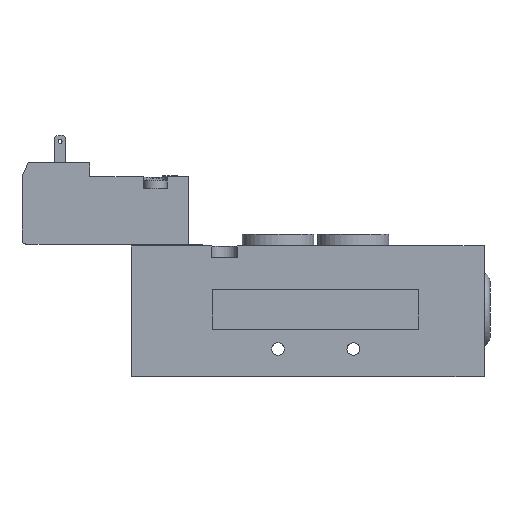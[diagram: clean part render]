
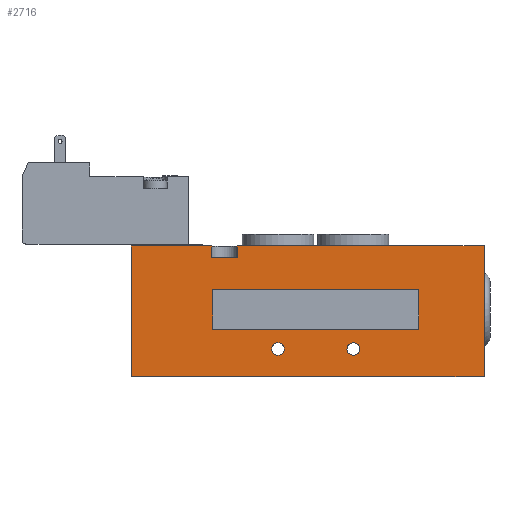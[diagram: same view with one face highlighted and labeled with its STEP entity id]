
A CAD part, top view. The second image highlights one B-rep face of the part: STEP entity #2716.
In plain terms, the highlighted planar face has unit normal (0, 0, 1).
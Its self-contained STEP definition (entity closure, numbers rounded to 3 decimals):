
#51=FACE_BOUND('',#396,.T.);
#52=FACE_BOUND('',#397,.T.);
#53=FACE_BOUND('',#398,.T.);
#108=PLANE('',#3003);
#231=FACE_OUTER_BOUND('',#395,.T.);
#395=EDGE_LOOP('',(#2028,#2029,#2030,#2031,#2032,#2033,#2034,#2035,#2036));
#396=EDGE_LOOP('',(#2037,#2038));
#397=EDGE_LOOP('',(#2039,#2040));
#398=EDGE_LOOP('',(#2041,#2042,#2043,#2044));
#515=LINE('',#4037,#753);
#528=LINE('',#4124,#766);
#529=LINE('',#4127,#767);
#550=LINE('',#4217,#788);
#567=LINE('',#4257,#805);
#573=LINE('',#4272,#811);
#574=LINE('',#4274,#812);
#579=LINE('',#4282,#817);
#581=LINE('',#4286,#819);
#582=LINE('',#4288,#820);
#583=LINE('',#4290,#821);
#584=LINE('',#4291,#822);
#585=LINE('',#4293,#823);
#753=VECTOR('',#3225,10.);
#766=VECTOR('',#3322,10.);
#767=VECTOR('',#3325,10.);
#788=VECTOR('',#3418,10.);
#805=VECTOR('',#3455,10.);
#811=VECTOR('',#3469,10.);
#812=VECTOR('',#3472,10.);
#817=VECTOR('',#3481,10.);
#819=VECTOR('',#3485,10.);
#820=VECTOR('',#3488,10.);
#821=VECTOR('',#3491,10.);
#822=VECTOR('',#3492,10.);
#823=VECTOR('',#3495,10.);
#985=CIRCLE('',#2904,1.6);
#986=CIRCLE('',#2905,1.6);
#988=CIRCLE('',#2908,1.6);
#989=CIRCLE('',#2909,1.6);
#1131=VERTEX_POINT('',#4035);
#1132=VERTEX_POINT('',#4036);
#1135=VERTEX_POINT('',#4044);
#1136=VERTEX_POINT('',#4045);
#1138=VERTEX_POINT('',#4052);
#1139=VERTEX_POINT('',#4053);
#1161=VERTEX_POINT('',#4113);
#1164=VERTEX_POINT('',#4122);
#1165=VERTEX_POINT('',#4126);
#1197=VERTEX_POINT('',#4214);
#1198=VERTEX_POINT('',#4216);
#1209=VERTEX_POINT('',#4253);
#1211=VERTEX_POINT('',#4256);
#1215=VERTEX_POINT('',#4268);
#1216=VERTEX_POINT('',#4270);
#1217=VERTEX_POINT('',#4280);
#1218=VERTEX_POINT('',#4284);
#1399=EDGE_CURVE('',#1131,#1132,#515,.T.);
#1403=EDGE_CURVE('',#1135,#1136,#985,.T.);
#1404=EDGE_CURVE('',#1136,#1135,#986,.T.);
#1407=EDGE_CURVE('',#1138,#1139,#988,.T.);
#1408=EDGE_CURVE('',#1139,#1138,#989,.T.);
#1441=EDGE_CURVE('',#1161,#1164,#528,.T.);
#1442=EDGE_CURVE('',#1165,#1161,#529,.T.);
#1483=EDGE_CURVE('',#1198,#1197,#550,.T.);
#1502=EDGE_CURVE('',#1211,#1209,#567,.T.);
#1510=EDGE_CURVE('',#1215,#1216,#573,.T.);
#1511=EDGE_CURVE('',#1209,#1215,#574,.T.);
#1516=EDGE_CURVE('',#1197,#1217,#579,.T.);
#1518=EDGE_CURVE('',#1217,#1218,#581,.T.);
#1519=EDGE_CURVE('',#1218,#1198,#582,.T.);
#1520=EDGE_CURVE('',#1131,#1216,#583,.T.);
#1521=EDGE_CURVE('',#1211,#1164,#584,.T.);
#1522=EDGE_CURVE('',#1165,#1132,#585,.T.);
#2028=ORIENTED_EDGE('',*,*,#1510,.T.);
#2029=ORIENTED_EDGE('',*,*,#1520,.F.);
#2030=ORIENTED_EDGE('',*,*,#1399,.T.);
#2031=ORIENTED_EDGE('',*,*,#1522,.F.);
#2032=ORIENTED_EDGE('',*,*,#1442,.T.);
#2033=ORIENTED_EDGE('',*,*,#1441,.T.);
#2034=ORIENTED_EDGE('',*,*,#1521,.F.);
#2035=ORIENTED_EDGE('',*,*,#1502,.T.);
#2036=ORIENTED_EDGE('',*,*,#1511,.T.);
#2037=ORIENTED_EDGE('',*,*,#1403,.T.);
#2038=ORIENTED_EDGE('',*,*,#1404,.T.);
#2039=ORIENTED_EDGE('',*,*,#1407,.T.);
#2040=ORIENTED_EDGE('',*,*,#1408,.T.);
#2041=ORIENTED_EDGE('',*,*,#1516,.T.);
#2042=ORIENTED_EDGE('',*,*,#1518,.T.);
#2043=ORIENTED_EDGE('',*,*,#1519,.T.);
#2044=ORIENTED_EDGE('',*,*,#1483,.T.);
#2716=ADVANCED_FACE('',(#231,#51,#52,#53),#108,.T.);
#2904=AXIS2_PLACEMENT_3D('',#4046,#3231,#3232);
#2905=AXIS2_PLACEMENT_3D('',#4047,#3233,#3234);
#2908=AXIS2_PLACEMENT_3D('',#4054,#3240,#3241);
#2909=AXIS2_PLACEMENT_3D('',#4055,#3242,#3243);
#3003=AXIS2_PLACEMENT_3D('',#4294,#3496,#3497);
#3225=DIRECTION('',(0.,-1.,0.));
#3231=DIRECTION('center_axis',(0.,0.,-1.));
#3232=DIRECTION('ref_axis',(1.,0.,0.));
#3233=DIRECTION('center_axis',(0.,0.,-1.));
#3234=DIRECTION('ref_axis',(1.,0.,0.));
#3240=DIRECTION('center_axis',(0.,0.,-1.));
#3241=DIRECTION('ref_axis',(1.,0.,0.));
#3242=DIRECTION('center_axis',(0.,0.,-1.));
#3243=DIRECTION('ref_axis',(1.,0.,0.));
#3322=DIRECTION('',(0.,1.,0.));
#3325=DIRECTION('',(0.,1.,0.));
#3418=DIRECTION('',(0.,-1.,0.));
#3455=DIRECTION('',(0.,-1.,0.));
#3469=DIRECTION('',(0.,1.,0.));
#3472=DIRECTION('',(-1.,0.,0.));
#3481=DIRECTION('',(-1.,0.,0.));
#3485=DIRECTION('',(0.,1.,0.));
#3488=DIRECTION('',(1.,0.,0.));
#3491=DIRECTION('',(1.,0.,0.));
#3492=DIRECTION('',(1.,0.,0.));
#3495=DIRECTION('',(-1.,0.,0.));
#3496=DIRECTION('center_axis',(0.,0.,1.));
#3497=DIRECTION('ref_axis',(1.,0.,0.));
#4035=CARTESIAN_POINT('',(-46.5,16.,9.25));
#4036=CARTESIAN_POINT('',(-46.5,-17.,9.25));
#4037=CARTESIAN_POINT('',(-46.5,-17.,9.25));
#4044=CARTESIAN_POINT('',(-7.9,-10.,9.25));
#4045=CARTESIAN_POINT('',(-11.1,-10.,9.25));
#4046=CARTESIAN_POINT('Origin',(-9.5,-10.,9.25));
#4047=CARTESIAN_POINT('Origin',(-9.5,-10.,9.25));
#4052=CARTESIAN_POINT('',(11.1,-10.,9.25));
#4053=CARTESIAN_POINT('',(7.9,-10.,9.25));
#4054=CARTESIAN_POINT('Origin',(9.5,-10.,9.25));
#4055=CARTESIAN_POINT('Origin',(9.5,-10.,9.25));
#4113=CARTESIAN_POINT('',(42.5,0.,9.25));
#4122=CARTESIAN_POINT('',(42.5,16.,9.25));
#4124=CARTESIAN_POINT('',(42.5,16.,9.25));
#4126=CARTESIAN_POINT('',(42.5,-17.,9.25));
#4127=CARTESIAN_POINT('',(42.5,16.,9.25));
#4214=CARTESIAN_POINT('',(26.,-5.,9.25));
#4216=CARTESIAN_POINT('',(26.,5.,9.25));
#4217=CARTESIAN_POINT('',(26.,2.25,9.25));
#4253=CARTESIAN_POINT('',(-19.75,13.,9.25));
#4256=CARTESIAN_POINT('',(-19.75,16.,9.25));
#4257=CARTESIAN_POINT('',(-19.75,7.75,9.25));
#4268=CARTESIAN_POINT('',(-26.25,13.,9.25));
#4270=CARTESIAN_POINT('',(-26.25,16.,9.25));
#4272=CARTESIAN_POINT('',(-26.25,7.75,9.25));
#4274=CARTESIAN_POINT('',(-11.5,13.,9.25));
#4280=CARTESIAN_POINT('',(-26.,-5.,9.25));
#4282=CARTESIAN_POINT('',(13.,-5.,9.25));
#4284=CARTESIAN_POINT('',(-26.,5.,9.25));
#4286=CARTESIAN_POINT('',(-26.,-2.75,9.25));
#4288=CARTESIAN_POINT('',(-13.,5.,9.25));
#4290=CARTESIAN_POINT('',(-28.5,16.,9.25));
#4291=CARTESIAN_POINT('',(28.5,16.,9.25));
#4293=CARTESIAN_POINT('',(-28.5,-17.,9.25));
#4294=CARTESIAN_POINT('Origin',(0.,-0.5,9.25));
